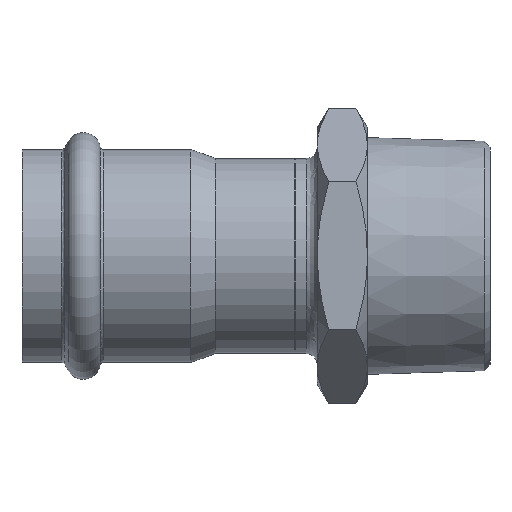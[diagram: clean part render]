
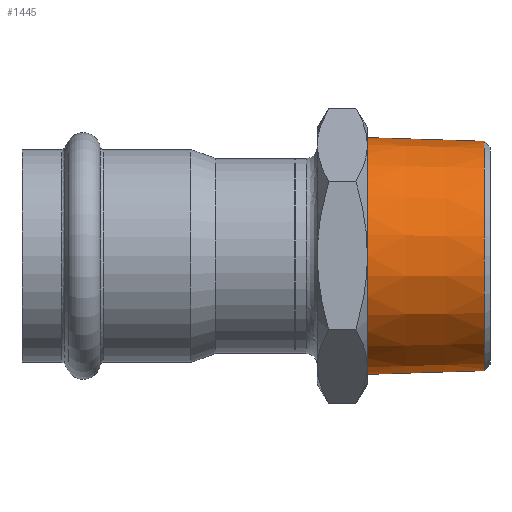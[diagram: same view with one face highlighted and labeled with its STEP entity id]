
A CAD part, top view. The second image highlights one B-rep face of the part: STEP entity #1445.
In plain terms, the highlighted conical face has half-angle 1.79 degrees and reference radius 20.892 mm.
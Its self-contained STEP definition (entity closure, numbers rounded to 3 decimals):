
#1403=CARTESIAN_POINT('',(-20.589,0.0,-1.));
#1404=VERTEX_POINT('',#1403);
#1405=CARTESIAN_POINT('',(0.0,0.,-1.));
#1406=DIRECTION('',(0.0,0.0,1.0));
#1407=DIRECTION('',(1.0,0.0,0.0));
#1408=AXIS2_PLACEMENT_3D('',#1405,#1406,#1407);
#1409=CIRCLE('',#1408,20.589);
#1410=EDGE_CURVE('',#1404,#1404,#1409,.T.);
#1426=CARTESIAN_POINT('',(0.0,0.0,-10.691));
#1427=DIRECTION('',(0.0,0.0,-1.0));
#1428=DIRECTION('',(1.0,0.0,0.0));
#1429=AXIS2_PLACEMENT_3D('',#1426,#1427,#1428);
#1430=CONICAL_SURFACE('',#1429,20.892,1.79);
#1431=CARTESIAN_POINT('',(21.246,0.0,-22.));
#1432=VERTEX_POINT('',#1431);
#1433=CARTESIAN_POINT('',(0.0,0.0,-22.));
#1434=DIRECTION('',(0.0,0.0,-1.0));
#1435=DIRECTION('',(1.0,0.0,0.0));
#1436=AXIS2_PLACEMENT_3D('',#1433,#1434,#1435);
#1437=CIRCLE('',#1436,21.246);
#1438=EDGE_CURVE('',#1432,#1432,#1437,.T.);
#1439=ORIENTED_EDGE('',*,*,#1438,.F.);
#1440=EDGE_LOOP('',(#1439));
#1441=FACE_OUTER_BOUND('',#1440,.T.);
#1442=ORIENTED_EDGE('',*,*,#1410,.F.);
#1443=EDGE_LOOP('',(#1442));
#1444=FACE_BOUND('',#1443,.T.);
#1445=ADVANCED_FACE('',(#1441,#1444),#1430,.T.);
